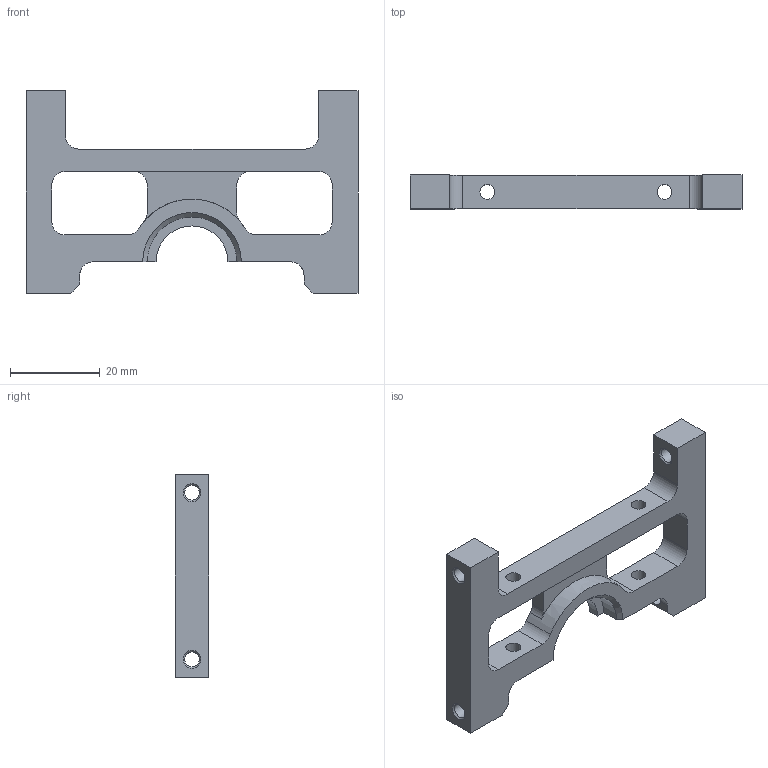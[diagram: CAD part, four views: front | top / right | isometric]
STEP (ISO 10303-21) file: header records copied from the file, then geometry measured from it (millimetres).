
FILE_DESCRIPTION(/* description */ (''),/* implementation_level */ '2;1');
FILE_NAME(/* name */ 'central_diff_bracket_front_26012016.stp',/* time_stamp */ '2016-01-26T01:29:24+03:00',/* author */ (''),/* organization */ (''),/* preprocessor_version */ 'ST-DEVELOPER v15',/* originating_system */ 'SIEMENS PLM Software NX 9.0',/* authorisation */ '');
FILE_SCHEMA (('AUTOMOTIVE_DESIGN { 1 0 10303 214 3 1 1 1 }'));
Length unit declared in the file: millimetre
Products named in the file (1): c0f007BCC3D27iuq
Bounding box: 74 x 7.5 x 45.15 mm (x, y, z)
Volume: 10407 mm3; surface area: 6832.6 mm2
Topology: 1 solids, 1 shells, 60 faces, 179 edges, 118 vertices
Faces by surface type: plane 26, cylinder 24, cone 9, extrusion 1
Full cylindrical faces by diameter (mm): 3.3 x8
Entity records: 2045 total; most frequent: CARTESIAN_POINT 421, DIRECTION 329, ORIENTED_EDGE 314, EDGE_CURVE 157, AXIS2_PLACEMENT_3D 117, VERTEX_POINT 112, VECTOR 95, LINE 94
